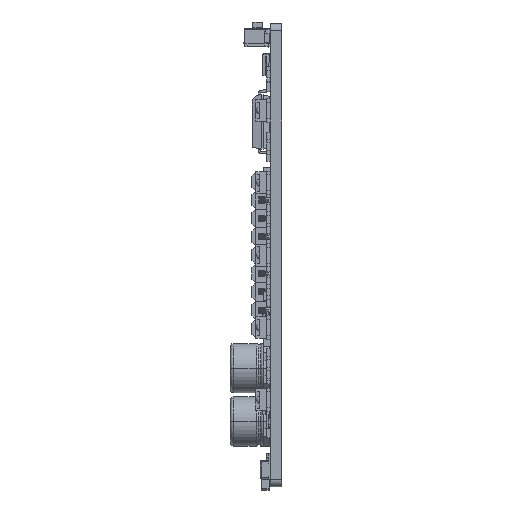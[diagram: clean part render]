
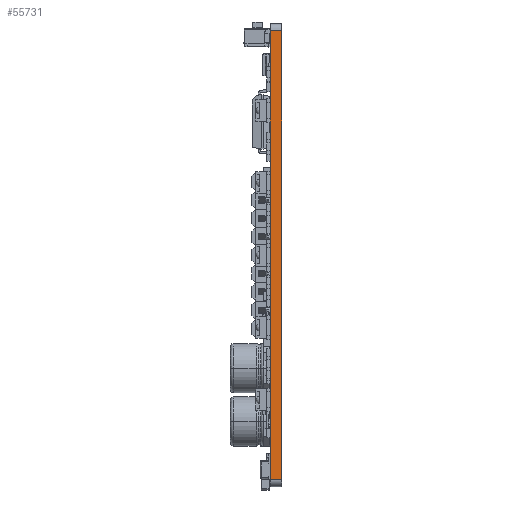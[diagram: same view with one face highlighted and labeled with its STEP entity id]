
A CAD part, left-side view. The second image highlights one B-rep face of the part: STEP entity #55731.
In plain terms, the highlighted planar face has unit normal (-1, 0, 0) as drawn and (0, 1, 0) by its records, which use the part's own axes.
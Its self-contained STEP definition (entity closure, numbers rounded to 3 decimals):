
#811 = DIRECTION ( 'NONE',  ( 0., 0., -1. ) ) ;
#2843 = VERTEX_POINT ( 'NONE', #32560 ) ;
#2901 = DIRECTION ( 'NONE',  ( 0., 0., -1. ) ) ;
#2995 = VECTOR ( 'NONE', #811, 1000. ) ;
#3251 = ORIENTED_EDGE ( 'NONE', *, *, #18210, .T. ) ;
#6399 = EDGE_LOOP ( 'NONE', ( #11041, #3251, #14807, #64925 ) ) ;
#7263 = EDGE_CURVE ( 'NONE', #49834, #2843, #9894, .T. ) ;
#8317 = AXIS2_PLACEMENT_3D ( 'NONE', #33896, #59317, #34345 ) ;
#9868 = FACE_OUTER_BOUND ( 'NONE', #6399, .T. ) ;
#9894 = LINE ( 'NONE', #35268, #34337 ) ;
#11041 = ORIENTED_EDGE ( 'NONE', *, *, #7263, .T. ) ;
#12678 = VERTEX_POINT ( 'NONE', #47324 ) ;
#13055 = VECTOR ( 'NONE', #2901, 1000. ) ;
#14807 = ORIENTED_EDGE ( 'NONE', *, *, #28207, .T. ) ;
#16451 = LINE ( 'NONE', #41544, #2995 ) ;
#18210 = EDGE_CURVE ( 'NONE', #2843, #34349, #20975, .T. ) ;
#20975 = LINE ( 'NONE', #48885, #13055 ) ;
#24784 = CARTESIAN_POINT ( 'NONE',  ( 63., 23., 0. ) ) ;
#28207 = EDGE_CURVE ( 'NONE', #34349, #12678, #30730, .T. ) ;
#29264 = CARTESIAN_POINT ( 'NONE',  ( 1., 23., 1.57 ) ) ;
#30730 = LINE ( 'NONE', #41601, #48100 ) ;
#32560 = CARTESIAN_POINT ( 'NONE',  ( 63., 23., 1.57 ) ) ;
#33896 = CARTESIAN_POINT ( 'NONE',  ( 63., 23., 0. ) ) ;
#34337 = VECTOR ( 'NONE', #60256, 1000. ) ;
#34345 = DIRECTION ( 'NONE',  ( 0., 0., 1. ) ) ;
#34349 = VERTEX_POINT ( 'NONE', #24784 ) ;
#35268 = CARTESIAN_POINT ( 'NONE',  ( 63., 23., 1.57 ) ) ;
#41544 = CARTESIAN_POINT ( 'NONE',  ( 1., 23., 0. ) ) ;
#41601 = CARTESIAN_POINT ( 'NONE',  ( 63., 23., 0. ) ) ;
#47324 = CARTESIAN_POINT ( 'NONE',  ( 1., 23., 0. ) ) ;
#48100 = VECTOR ( 'NONE', #62548, 1000. ) ;
#48885 = CARTESIAN_POINT ( 'NONE',  ( 63., 23., 0. ) ) ;
#49834 = VERTEX_POINT ( 'NONE', #29264 ) ;
#55731 = ADVANCED_FACE ( 'NONE', ( #9868 ), #64600, .T. ) ;
#59317 = DIRECTION ( 'NONE',  ( 0., 1., 0. ) ) ;
#59427 = EDGE_CURVE ( 'NONE', #49834, #12678, #16451, .T. ) ;
#60256 = DIRECTION ( 'NONE',  ( 1., 0., 0. ) ) ;
#62548 = DIRECTION ( 'NONE',  ( -1., 0., 0. ) ) ;
#64600 = PLANE ( 'NONE',  #8317 ) ;
#64925 = ORIENTED_EDGE ( 'NONE', *, *, #59427, .F. ) ;
